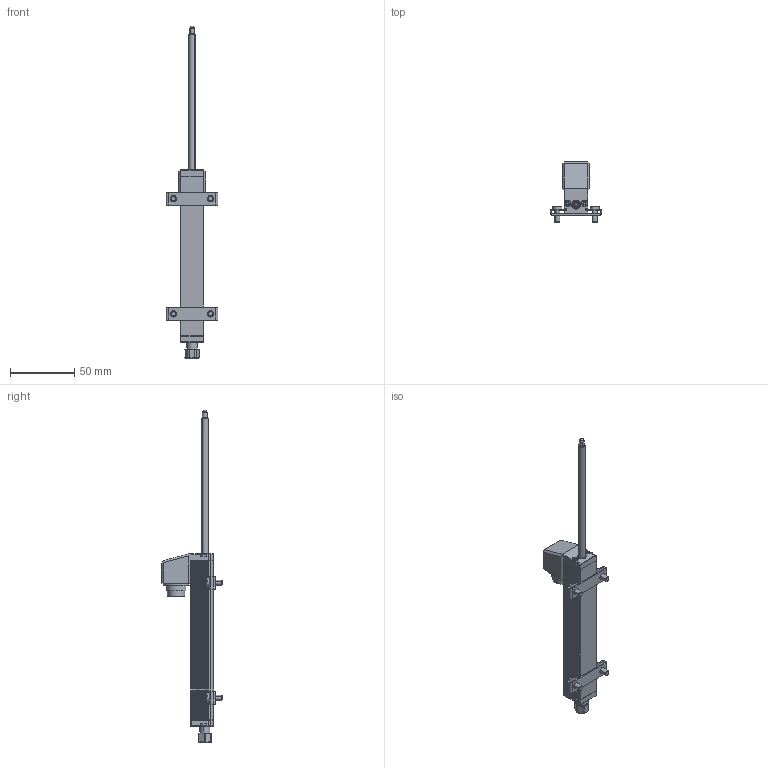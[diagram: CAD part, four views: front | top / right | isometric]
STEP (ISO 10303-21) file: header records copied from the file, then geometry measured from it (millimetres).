
FILE_DESCRIPTION (( 'STEP AP214' ), '1' );
FILE_NAME ('TRS_075.STEP', '2008-11-05T12:23:10', ( 'novotechnik' ), ( 'novotechnik' ), 'SwSTEP 2.0', 'SolidWorks 2008', '' );
FILE_SCHEMA (( 'AUTOMOTIVE_DESIGN' ));
Length unit declared in the file: millimetre
Products named in the file (4): T-Serie_Klammer_Standard; TRS_075_-_Gehaeuse_Standard; TR_TRS_075_-_Schubstange_Standard; TRS_075
Assembly tree (4 placements, depth 2):
  TRS_075
    TR_TRS_075_-_Schubstange_Standard
    TRS_075_-_Gehaeuse_Standard
    T-Serie_Klammer_Standard  x2
Bounding box: 40.19 x 47.19 x 258.4 mm (x, y, z)
Volume: 59920.1 mm3; surface area: 29744.1 mm2
Topology: 24 solids, 24 shells, 991 faces, 2443 edges, 1515 vertices
Faces by surface type: cylinder 486, plane 305, bspline 110, cone 88, torus 2
Entity records: 39874 total; most frequent: CARTESIAN_POINT 7503, DIRECTION 4774, ORIENTED_EDGE 4510, EDGE_CURVE 2255, AXIS2_PLACEMENT_3D 1852, VERTEX_POINT 1411, VECTOR 1070, LINE 1070
